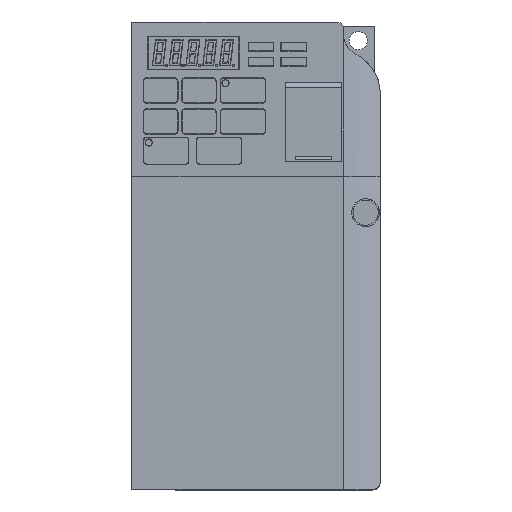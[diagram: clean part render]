
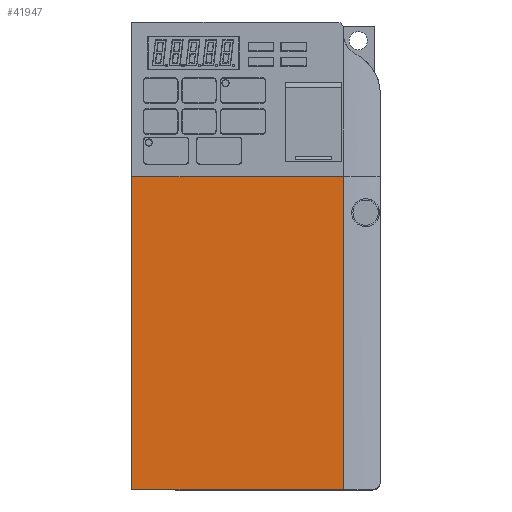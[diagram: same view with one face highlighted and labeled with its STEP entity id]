
A CAD part, top view. The second image highlights one B-rep face of the part: STEP entity #41947.
In plain terms, the highlighted planar face has unit normal (0, 0, 1).
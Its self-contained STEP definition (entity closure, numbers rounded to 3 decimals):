
#41458=DIRECTION('',(0.,-1.,0.));
#41459=VECTOR('',#41458,85.8);
#41460=CARTESIAN_POINT('',(-6.,10.,8.));
#41461=LINE('',#41460,#41459);
#41542=DIRECTION('',(-1.,0.,0.));
#41543=VECTOR('',#41542,58.);
#41544=CARTESIAN_POINT('',(-6.,-75.8,8.));
#41545=LINE('',#41544,#41543);
#41551=DIRECTION('',(0.,1.,0.));
#41552=VECTOR('',#41551,85.8);
#41553=CARTESIAN_POINT('',(-64.,-75.8,8.));
#41554=LINE('',#41553,#41552);
#41568=DIRECTION('',(1.,0.,0.));
#41569=VECTOR('',#41568,58.);
#41570=CARTESIAN_POINT('',(-64.,10.,8.));
#41571=LINE('',#41570,#41569);
#41746=CARTESIAN_POINT('',(-64.,10.,8.));
#41748=VERTEX_POINT('',#41746);
#41749=CARTESIAN_POINT('',(-6.,10.,8.));
#41750=VERTEX_POINT('',#41749);
#41756=CARTESIAN_POINT('',(-6.,-75.8,8.));
#41757=CARTESIAN_POINT('',(-64.,-75.8,8.));
#41758=VERTEX_POINT('',#41756);
#41759=VERTEX_POINT('',#41757);
#41936=CARTESIAN_POINT('',(-30.096,-32.779,8.));
#41937=DIRECTION('',(0.,0.,1.));
#41938=DIRECTION('',(1.,0.,0.));
#41939=AXIS2_PLACEMENT_3D('',#41936,#41937,#41938);
#41940=PLANE('',#41939);
#41941=ORIENTED_EDGE('',*,*,#41916,.T.);
#41942=ORIENTED_EDGE('',*,*,#41931,.T.);
#41943=ORIENTED_EDGE('',*,*,#41817,.T.);
#41944=ORIENTED_EDGE('',*,*,#41901,.T.);
#41945=EDGE_LOOP('',(#41941,#41942,#41943,#41944));
#41946=FACE_OUTER_BOUND('',#41945,.F.);
#41947=ADVANCED_FACE('',(#41946),#41940,.T.);
#41817=EDGE_CURVE('',#41750,#41758,#41461,.T.);
#41901=EDGE_CURVE('',#41758,#41759,#41545,.T.);
#41916=EDGE_CURVE('',#41759,#41748,#41554,.T.);
#41931=EDGE_CURVE('',#41748,#41750,#41571,.T.);
